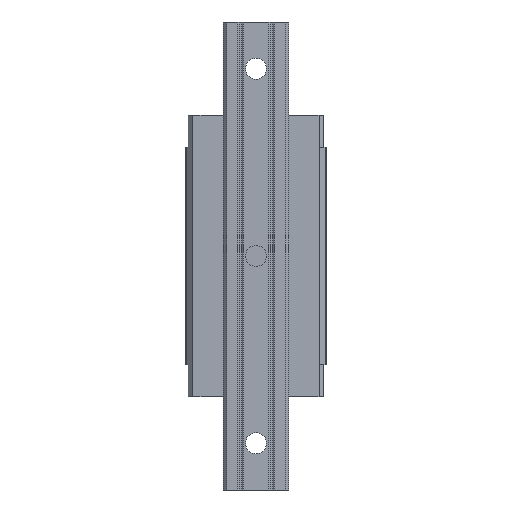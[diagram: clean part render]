
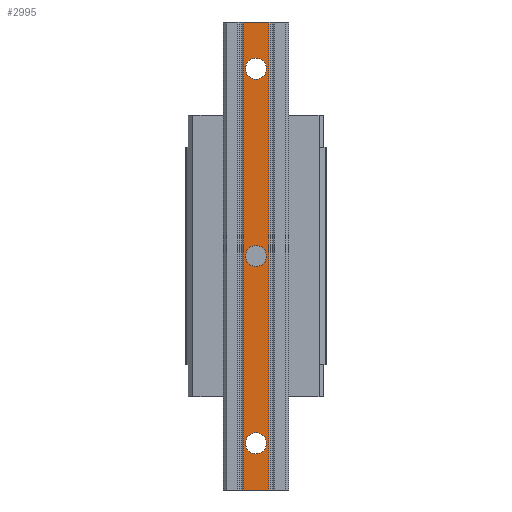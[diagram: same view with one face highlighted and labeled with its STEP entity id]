
A CAD part, front view. The second image highlights one B-rep face of the part: STEP entity #2995.
In plain terms, the highlighted planar face has unit normal (0, -1, 0).
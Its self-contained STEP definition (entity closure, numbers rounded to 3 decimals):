
#116 = VERTEX_POINT ( 'NONE', #2763 ) ;
#125 = AXIS2_PLACEMENT_3D ( 'NONE', #2408, #5339, #702 ) ;
#144 = VECTOR ( 'NONE', #5533, 1000. ) ;
#237 = EDGE_CURVE ( 'NONE', #2150, #3268, #2868, .T. ) ;
#263 = CIRCLE ( 'NONE', #6125, 4.5 ) ;
#309 = CARTESIAN_POINT ( 'NONE',  ( -5.55, -26., 100. ) ) ;
#364 = EDGE_LOOP ( 'NONE', ( #2492, #3504 ) ) ;
#404 = DIRECTION ( 'NONE',  ( -1., 0., 0. ) ) ;
#470 = VERTEX_POINT ( 'NONE', #4730 ) ;
#593 = ORIENTED_EDGE ( 'NONE', *, *, #237, .T. ) ;
#647 = CARTESIAN_POINT ( 'NONE',  ( 0., -26., -80. ) ) ;
#702 = DIRECTION ( 'NONE',  ( -1., 0., 0. ) ) ;
#745 = CARTESIAN_POINT ( 'NONE',  ( -5.55, -26., -100. ) ) ;
#773 = VECTOR ( 'NONE', #1223, 1000. ) ;
#828 = LINE ( 'NONE', #5496, #144 ) ;
#831 = CARTESIAN_POINT ( 'NONE',  ( 0., -26., 0. ) ) ;
#847 = VECTOR ( 'NONE', #5302, 1000. ) ;
#866 = FACE_BOUND ( 'NONE', #4765, .T. ) ;
#923 = CARTESIAN_POINT ( 'NONE',  ( 4.5, -26., 80. ) ) ;
#935 = FACE_BOUND ( 'NONE', #364, .T. ) ;
#994 = AXIS2_PLACEMENT_3D ( 'NONE', #831, #1554, #6000 ) ;
#999 = DIRECTION ( 'NONE',  ( 0., 1., 0. ) ) ;
#1015 = ORIENTED_EDGE ( 'NONE', *, *, #7316, .T. ) ;
#1023 = CIRCLE ( 'NONE', #5309, 4.5 ) ;
#1098 = CARTESIAN_POINT ( 'NONE',  ( 0., -26., -80. ) ) ;
#1123 = CIRCLE ( 'NONE', #994, 4.5 ) ;
#1126 = CIRCLE ( 'NONE', #1489, 4.5 ) ;
#1166 = ORIENTED_EDGE ( 'NONE', *, *, #5134, .T. ) ;
#1212 = DIRECTION ( 'NONE',  ( -1., 0., 0. ) ) ;
#1223 = DIRECTION ( 'NONE',  ( 0., 0., 1. ) ) ;
#1304 = LINE ( 'NONE', #1951, #773 ) ;
#1489 = AXIS2_PLACEMENT_3D ( 'NONE', #1098, #3290, #404 ) ;
#1521 = EDGE_LOOP ( 'NONE', ( #593, #5058, #1015, #2103 ) ) ;
#1554 = DIRECTION ( 'NONE',  ( 0., 1., 0. ) ) ;
#1749 = CARTESIAN_POINT ( 'NONE',  ( 0., -26., 80. ) ) ;
#1934 = CIRCLE ( 'NONE', #6441, 4.5 ) ;
#1951 = CARTESIAN_POINT ( 'NONE',  ( 5.55, -26., -100. ) ) ;
#2027 = CARTESIAN_POINT ( 'NONE',  ( 4.5, -26., 0. ) ) ;
#2103 = ORIENTED_EDGE ( 'NONE', *, *, #3022, .F. ) ;
#2124 = DIRECTION ( 'NONE',  ( 1., 0., 0. ) ) ;
#2150 = VERTEX_POINT ( 'NONE', #309 ) ;
#2408 = CARTESIAN_POINT ( 'NONE',  ( 0., -26., 80. ) ) ;
#2429 = EDGE_CURVE ( 'NONE', #3268, #3436, #6737, .T. ) ;
#2492 = ORIENTED_EDGE ( 'NONE', *, *, #6674, .T. ) ;
#2533 = FACE_BOUND ( 'NONE', #4306, .T. ) ;
#2648 = ORIENTED_EDGE ( 'NONE', *, *, #4590, .T. ) ;
#2706 = CARTESIAN_POINT ( 'NONE',  ( 5.55, -26., -100. ) ) ;
#2763 = CARTESIAN_POINT ( 'NONE',  ( -4.5, -26., 0. ) ) ;
#2857 = EDGE_CURVE ( 'NONE', #470, #6660, #1023, .T. ) ;
#2868 = LINE ( 'NONE', #3522, #847 ) ;
#2918 = DIRECTION ( 'NONE',  ( 0., 1., 0. ) ) ;
#2958 = CARTESIAN_POINT ( 'NONE',  ( 4.5, -26., -80. ) ) ;
#2995 = ADVANCED_FACE ( 'NONE', ( #866, #935, #2533, #3719 ), #3690, .T. ) ;
#3022 = EDGE_CURVE ( 'NONE', #2150, #4378, #828, .T. ) ;
#3167 = EDGE_CURVE ( 'NONE', #6660, #470, #1126, .T. ) ;
#3220 = CARTESIAN_POINT ( 'NONE',  ( -5.55, -26., -100. ) ) ;
#3268 = VERTEX_POINT ( 'NONE', #745 ) ;
#3285 = CIRCLE ( 'NONE', #125, 4.5 ) ;
#3290 = DIRECTION ( 'NONE',  ( 0., 1., 0. ) ) ;
#3436 = VERTEX_POINT ( 'NONE', #2706 ) ;
#3494 = DIRECTION ( 'NONE',  ( -1., 0., 0. ) ) ;
#3504 = ORIENTED_EDGE ( 'NONE', *, *, #6468, .T. ) ;
#3522 = CARTESIAN_POINT ( 'NONE',  ( -5.55, -26., -100. ) ) ;
#3690 = PLANE ( 'NONE',  #6155 ) ;
#3719 = FACE_OUTER_BOUND ( 'NONE', #1521, .T. ) ;
#3915 = CARTESIAN_POINT ( 'NONE',  ( 0., -26., -100. ) ) ;
#4150 = DIRECTION ( 'NONE',  ( 0., 1., 0. ) ) ;
#4306 = EDGE_LOOP ( 'NONE', ( #2648, #1166 ) ) ;
#4378 = VERTEX_POINT ( 'NONE', #6245 ) ;
#4464 = VERTEX_POINT ( 'NONE', #7112 ) ;
#4571 = VECTOR ( 'NONE', #2124, 1000. ) ;
#4590 = EDGE_CURVE ( 'NONE', #116, #7114, #1934, .T. ) ;
#4730 = CARTESIAN_POINT ( 'NONE',  ( -4.5, -26., -80. ) ) ;
#4765 = EDGE_LOOP ( 'NONE', ( #5927, #7528 ) ) ;
#5056 = CARTESIAN_POINT ( 'NONE',  ( 0., -26., 0. ) ) ;
#5058 = ORIENTED_EDGE ( 'NONE', *, *, #2429, .T. ) ;
#5134 = EDGE_CURVE ( 'NONE', #7114, #116, #1123, .T. ) ;
#5302 = DIRECTION ( 'NONE',  ( 0., 0., -1. ) ) ;
#5309 = AXIS2_PLACEMENT_3D ( 'NONE', #647, #4150, #1212 ) ;
#5339 = DIRECTION ( 'NONE',  ( 0., 1., 0. ) ) ;
#5496 = CARTESIAN_POINT ( 'NONE',  ( 0., -26., 100. ) ) ;
#5533 = DIRECTION ( 'NONE',  ( 1., 0., 0. ) ) ;
#5624 = DIRECTION ( 'NONE',  ( -1., 0., 0. ) ) ;
#5927 = ORIENTED_EDGE ( 'NONE', *, *, #2857, .T. ) ;
#6000 = DIRECTION ( 'NONE',  ( -1., 0., 0. ) ) ;
#6078 = DIRECTION ( 'NONE',  ( 0., -1., 0. ) ) ;
#6125 = AXIS2_PLACEMENT_3D ( 'NONE', #1749, #2918, #3494 ) ;
#6155 = AXIS2_PLACEMENT_3D ( 'NONE', #3220, #6078, #7304 ) ;
#6245 = CARTESIAN_POINT ( 'NONE',  ( 5.55, -26., 100. ) ) ;
#6441 = AXIS2_PLACEMENT_3D ( 'NONE', #5056, #999, #5624 ) ;
#6468 = EDGE_CURVE ( 'NONE', #7052, #4464, #3285, .T. ) ;
#6660 = VERTEX_POINT ( 'NONE', #2958 ) ;
#6674 = EDGE_CURVE ( 'NONE', #4464, #7052, #263, .T. ) ;
#6737 = LINE ( 'NONE', #3915, #4571 ) ;
#7052 = VERTEX_POINT ( 'NONE', #923 ) ;
#7112 = CARTESIAN_POINT ( 'NONE',  ( -4.5, -26., 80. ) ) ;
#7114 = VERTEX_POINT ( 'NONE', #2027 ) ;
#7304 = DIRECTION ( 'NONE',  ( 0., 0., -1. ) ) ;
#7316 = EDGE_CURVE ( 'NONE', #3436, #4378, #1304, .T. ) ;
#7528 = ORIENTED_EDGE ( 'NONE', *, *, #3167, .T. ) ;
